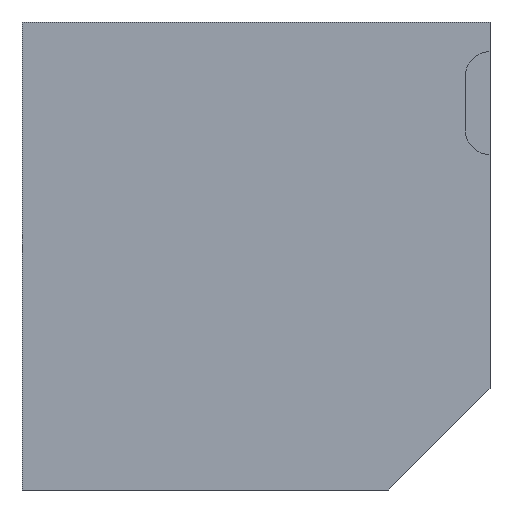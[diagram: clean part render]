
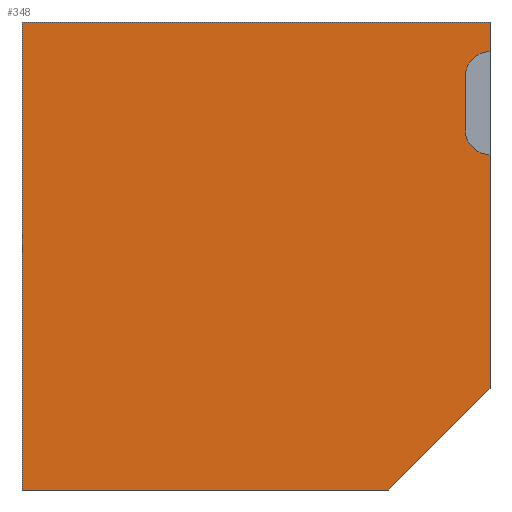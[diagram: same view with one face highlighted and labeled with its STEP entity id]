
A CAD part, front view. The second image highlights one B-rep face of the part: STEP entity #348.
In plain terms, the highlighted planar face has unit normal (0, -1, 0).
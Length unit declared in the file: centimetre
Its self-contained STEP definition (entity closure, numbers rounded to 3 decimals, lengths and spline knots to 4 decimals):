
#3 = DIRECTION ( 'NONE',  ( 1., 0., 0. ) ) ;
#9 = LINE ( 'NONE', #939, #194 ) ;
#13 = VERTEX_POINT ( 'NONE', #328 ) ;
#14 = CARTESIAN_POINT ( 'NONE',  ( 0., 0., 1000. ) ) ;
#17 = VERTEX_POINT ( 'NONE', #1005 ) ;
#22 = CARTESIAN_POINT ( 'NONE',  ( 1000., 0., 769.4402 ) ) ;
#77 = LINE ( 'NONE', #14, #880 ) ;
#107 = VERTEX_POINT ( 'NONE', #766 ) ;
#165 = LINE ( 'NONE', #853, #850 ) ;
#169 = DIRECTION ( 'NONE',  ( 0., 0., -1. ) ) ;
#171 = DIRECTION ( 'NONE',  ( 0., 0., 1. ) ) ;
#194 = VECTOR ( 'NONE', #515, 100. ) ;
#196 = ORIENTED_EDGE ( 'NONE', *, *, #389, .F. ) ;
#246 = CARTESIAN_POINT ( 'NONE',  ( 1000., 0., 216.862 ) ) ;
#247 = AXIS2_PLACEMENT_3D ( 'NONE', #22, #1028, #372 ) ;
#266 = VECTOR ( 'NONE', #785, 100. ) ;
#272 = CARTESIAN_POINT ( 'NONE',  ( 947.1328, 0., 769.4402 ) ) ;
#288 = ORIENTED_EDGE ( 'NONE', *, *, #440, .F. ) ;
#328 = CARTESIAN_POINT ( 'NONE',  ( 0., 0., 1000. ) ) ;
#329 = EDGE_CURVE ( 'NONE', #107, #965, #709, .T. ) ;
#333 = AXIS2_PLACEMENT_3D ( 'NONE', #858, #994, #666 ) ;
#346 = CARTESIAN_POINT ( 'NONE',  ( 947.1328, 0., 769.4402 ) ) ;
#348 = ADVANCED_FACE ( 'NONE', ( #970 ), #641, .F. ) ;
#351 = CARTESIAN_POINT ( 'NONE',  ( 783.138, 0., 0. ) ) ;
#358 = DIRECTION ( 'NONE',  ( 0., 0., -1. ) ) ;
#360 = CARTESIAN_POINT ( 'NONE',  ( 0., 0., 1000. ) ) ;
#365 = DIRECTION ( 'NONE',  ( 1., 0., 0. ) ) ;
#372 = DIRECTION ( 'NONE',  ( 0., 0., 1. ) ) ;
#389 = EDGE_CURVE ( 'NONE', #965, #586, #778, .T. ) ;
#440 = EDGE_CURVE ( 'NONE', #873, #107, #816, .T. ) ;
#466 = ORIENTED_EDGE ( 'NONE', *, *, #769, .F. ) ;
#487 = VERTEX_POINT ( 'NONE', #246 ) ;
#508 = VECTOR ( 'NONE', #3, 100. ) ;
#511 = LINE ( 'NONE', #1101, #508 ) ;
#515 = DIRECTION ( 'NONE',  ( 0.707, 0., 0.707 ) ) ;
#526 = CARTESIAN_POINT ( 'NONE',  ( 1000., 0., 936.5198 ) ) ;
#557 = ORIENTED_EDGE ( 'NONE', *, *, #922, .T. ) ;
#573 = ORIENTED_EDGE ( 'NONE', *, *, #762, .F. ) ;
#586 = VERTEX_POINT ( 'NONE', #673 ) ;
#639 = CARTESIAN_POINT ( 'NONE',  ( 0., 0., 0. ) ) ;
#641 = PLANE ( 'NONE',  #929 ) ;
#643 = EDGE_LOOP ( 'NONE', ( #573, #196, #972, #288, #868, #466, #889, #1073, #557 ) ) ;
#666 = DIRECTION ( 'NONE',  ( 0., 0., 1. ) ) ;
#673 = CARTESIAN_POINT ( 'NONE',  ( 1000., 0., 716.573 ) ) ;
#692 = LINE ( 'NONE', #775, #1030 ) ;
#702 = DIRECTION ( 'NONE',  ( 0., 1., 0. ) ) ;
#709 = LINE ( 'NONE', #272, #954 ) ;
#752 = EDGE_CURVE ( 'NONE', #1040, #795, #511, .T. ) ;
#762 = EDGE_CURVE ( 'NONE', #586, #487, #165, .T. ) ;
#766 = CARTESIAN_POINT ( 'NONE',  ( 947.1328, 0., 883.6526 ) ) ;
#769 = EDGE_CURVE ( 'NONE', #13, #17, #77, .T. ) ;
#771 = CARTESIAN_POINT ( 'NONE',  ( 0., 0., 1000. ) ) ;
#775 = CARTESIAN_POINT ( 'NONE',  ( 1000., 0., 1000. ) ) ;
#778 = CIRCLE ( 'NONE', #247, 52.8672 ) ;
#785 = DIRECTION ( 'NONE',  ( 0., 0., -1. ) ) ;
#789 = EDGE_CURVE ( 'NONE', #13, #1040, #874, .T. ) ;
#795 = VERTEX_POINT ( 'NONE', #351 ) ;
#813 = EDGE_CURVE ( 'NONE', #17, #873, #692, .T. ) ;
#816 = CIRCLE ( 'NONE', #333, 52.8672 ) ;
#850 = VECTOR ( 'NONE', #358, 100. ) ;
#853 = CARTESIAN_POINT ( 'NONE',  ( 1000., 0., 1000. ) ) ;
#858 = CARTESIAN_POINT ( 'NONE',  ( 1000., 0., 883.6526 ) ) ;
#868 = ORIENTED_EDGE ( 'NONE', *, *, #813, .F. ) ;
#873 = VERTEX_POINT ( 'NONE', #526 ) ;
#874 = LINE ( 'NONE', #771, #266 ) ;
#880 = VECTOR ( 'NONE', #365, 100. ) ;
#889 = ORIENTED_EDGE ( 'NONE', *, *, #789, .T. ) ;
#922 = EDGE_CURVE ( 'NONE', #795, #487, #9, .T. ) ;
#929 = AXIS2_PLACEMENT_3D ( 'NONE', #360, #702, #171 ) ;
#939 = CARTESIAN_POINT ( 'NONE',  ( 1000., 0., 216.862 ) ) ;
#954 = VECTOR ( 'NONE', #1042, 100. ) ;
#965 = VERTEX_POINT ( 'NONE', #346 ) ;
#970 = FACE_OUTER_BOUND ( 'NONE', #643, .T. ) ;
#972 = ORIENTED_EDGE ( 'NONE', *, *, #329, .F. ) ;
#994 = DIRECTION ( 'NONE',  ( 0., -1., 0. ) ) ;
#1005 = CARTESIAN_POINT ( 'NONE',  ( 1000., 0., 1000. ) ) ;
#1028 = DIRECTION ( 'NONE',  ( 0., -1., 0. ) ) ;
#1030 = VECTOR ( 'NONE', #169, 100. ) ;
#1040 = VERTEX_POINT ( 'NONE', #639 ) ;
#1042 = DIRECTION ( 'NONE',  ( 0., 0., -1. ) ) ;
#1073 = ORIENTED_EDGE ( 'NONE', *, *, #752, .T. ) ;
#1101 = CARTESIAN_POINT ( 'NONE',  ( 0., 0., 0. ) ) ;
